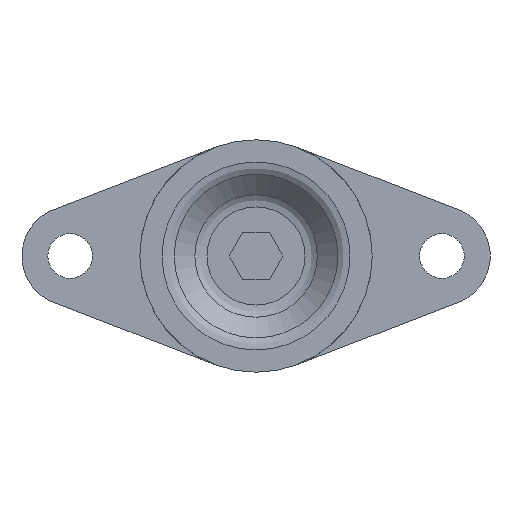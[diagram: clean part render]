
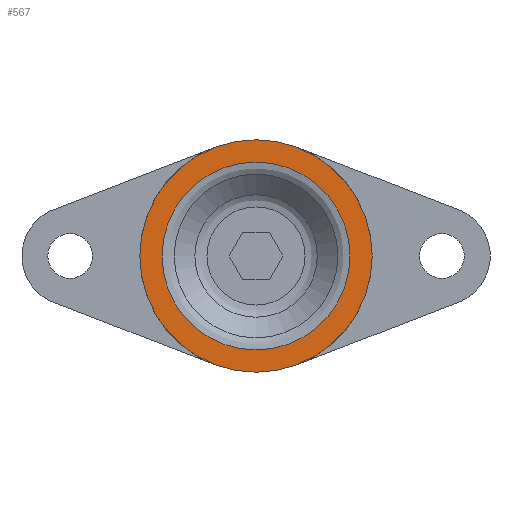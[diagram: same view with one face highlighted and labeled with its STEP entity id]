
A CAD part, left-side view. The second image highlights one B-rep face of the part: STEP entity #567.
In plain terms, the highlighted planar face has unit normal (-1, 0, 0).
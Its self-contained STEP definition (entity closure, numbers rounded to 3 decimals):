
#7=CARTESIAN_POINT('',(-533.136,-488.109,-32.5));
#8=VERTEX_POINT('',#7);
#34=CARTESIAN_POINT('',(-533.136,-488.109,32.5));
#35=VERTEX_POINT('',#34);
#36=CARTESIAN_POINT('',(-533.136,-488.109,0.0));
#37=DIRECTION('',(-1.0,0.0,0.0));
#38=DIRECTION('',(0.0,0.0,-1.0));
#39=AXIS2_PLACEMENT_3D('',#36,#37,#38);
#40=CIRCLE('',#39,32.5);
#41=EDGE_CURVE('',#35,#8,#40,.T.);
#43=CARTESIAN_POINT('',(-533.136,-488.109,0.0));
#44=DIRECTION('',(-1.0,0.0,0.0));
#45=DIRECTION('',(0.0,0.0,-1.0));
#46=AXIS2_PLACEMENT_3D('',#43,#44,#45);
#47=CIRCLE('',#46,32.5);
#48=EDGE_CURVE('',#8,#35,#47,.T.);
#523=CARTESIAN_POINT('',(-533.136,-488.109,-26.284));
#524=VERTEX_POINT('',#523);
#532=CARTESIAN_POINT('',(-533.136,-488.109,26.284));
#533=VERTEX_POINT('',#532);
#534=CARTESIAN_POINT('',(-533.136,-488.109,0.0));
#535=DIRECTION('',(-1.0,0.0,0.0));
#536=DIRECTION('',(0.0,0.0,-1.0));
#537=AXIS2_PLACEMENT_3D('',#534,#535,#536);
#538=CIRCLE('',#537,26.284);
#539=EDGE_CURVE('',#524,#533,#538,.T.);
#541=CARTESIAN_POINT('',(-533.136,-488.109,0.0));
#542=DIRECTION('',(-1.0,0.0,0.0));
#543=DIRECTION('',(0.0,0.0,-1.0));
#544=AXIS2_PLACEMENT_3D('',#541,#542,#543);
#545=CIRCLE('',#544,26.284);
#546=EDGE_CURVE('',#533,#524,#545,.T.);
#554=CARTESIAN_POINT('',(-533.136,-423.109,65.0));
#555=DIRECTION('',(1.0,0.0,0.0));
#556=DIRECTION('',(0.0,-1.0,0.0));
#557=AXIS2_PLACEMENT_3D('',#554,#555,#556);
#558=PLANE('',#557);
#559=ORIENTED_EDGE('',*,*,#48,.T.);
#560=ORIENTED_EDGE('',*,*,#41,.T.);
#561=EDGE_LOOP('',(#559,#560));
#562=FACE_OUTER_BOUND('',#561,.T.);
#563=ORIENTED_EDGE('',*,*,#546,.F.);
#564=ORIENTED_EDGE('',*,*,#539,.F.);
#565=EDGE_LOOP('',(#563,#564));
#566=FACE_BOUND('',#565,.T.);
#567=ADVANCED_FACE('',(#562,#566),#558,.F.);
